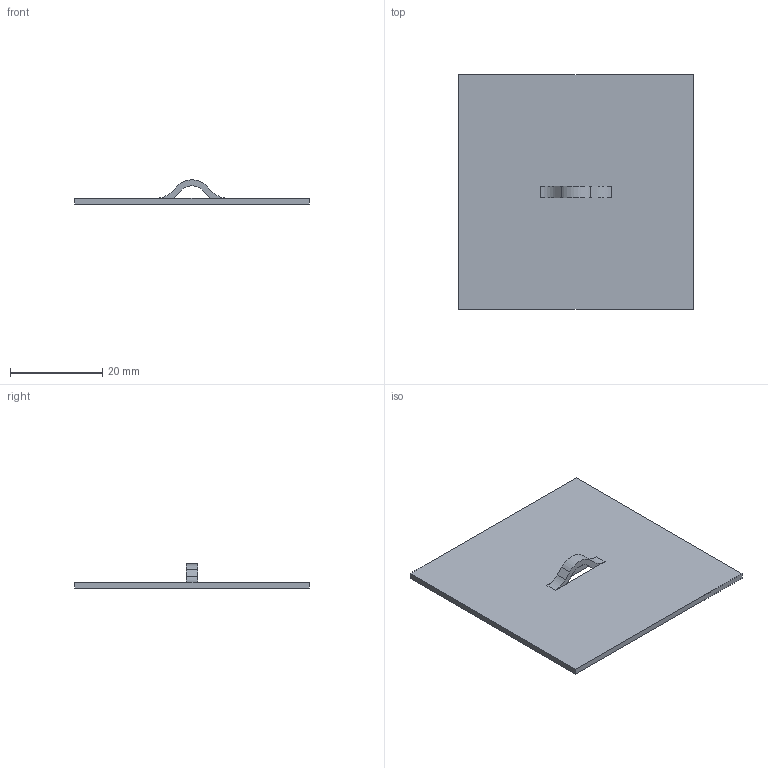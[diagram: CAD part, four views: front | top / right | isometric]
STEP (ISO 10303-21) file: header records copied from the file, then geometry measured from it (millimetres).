
FILE_DESCRIPTION((''),'1');
FILE_NAME('C:/Users/robertnolte/Desktop/WT#754811-60.stp','2012-03-28T17:19:50',(''),(''),'Spatial Interop R21 SP3','Kubotek KeyCreator 2011 V10.5.0 (24766)',' ');
FILE_SCHEMA(('CONFIG_CONTROL_DESIGN'));
Length unit declared in the file: inch
Products named in the file (1): 1
Bounding box: 50.8 x 50.8 x 5.22 mm (x, y, z)
Volume: 3285.6 mm3; surface area: 5516 mm2
Topology: 1 solids, 1 shells, 20 faces, 52 edges, 32 vertices
Faces by surface type: plane 14, cylinder 6
Entity records: 656 total; most frequent: DIRECTION 106, CARTESIAN_POINT 105, ORIENTED_EDGE 104, EDGE_CURVE 52, LINE 40, VECTOR 40, AXIS2_PLACEMENT_3D 33, VERTEX_POINT 32
